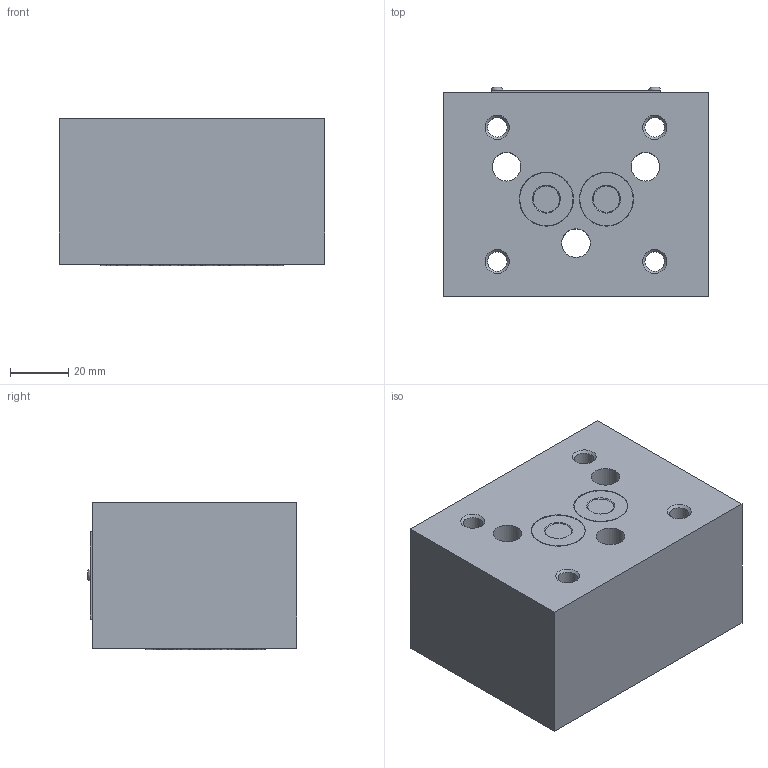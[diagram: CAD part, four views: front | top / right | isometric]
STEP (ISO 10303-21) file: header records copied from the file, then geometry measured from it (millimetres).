
FILE_DESCRIPTION(/* description */ (''),/* implementation_level */ '2;1');
FILE_NAME(/* name */ 'Z1S10E叠加式单向阀.prt.stp',/* time_stamp */ '2022-03-30T19:25:18+08:00',/* author */ (''),/* organization */ (''),/* preprocessor_version */ 'ST-DEVELOPER v16.7',/* originating_system */ 'SIEMENS PLM Software NX 12.0',/* authorisation */ '');
FILE_SCHEMA (('AUTOMOTIVE_DESIGN { 1 0 10303 214 3 1 1 1 }'));
Length unit declared in the file: millimetre
Products named in the file (1): Z1S10E叠加式单向阀
Bounding box: 91 x 71.8 x 50.5 mm (x, y, z)
Volume: 296123.2 mm3; surface area: 48152.4 mm2
Topology: 11 solids, 11 shells, 90 faces, 179 edges, 114 vertices
Faces by surface type: plane 37, cylinder 28, cone 16, torus 5, bspline 4
Full cylindrical faces by diameter (mm): 1.8 x4, 2 x2, 6.7 x4, 9.8 x3, 15.7 x5, 18 x2, 18.2 x2, 18.3 x2
Entity records: 2219 total; most frequent: CARTESIAN_POINT 424, DIRECTION 366, ORIENTED_EDGE 232, AXIS2_PLACEMENT_3D 163, EDGE_LOOP 160, FACE_BOUND 144, EDGE_CURVE 116, VERTEX_POINT 109
